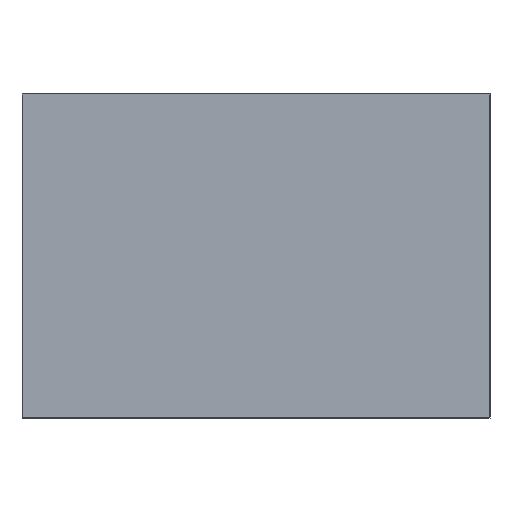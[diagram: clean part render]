
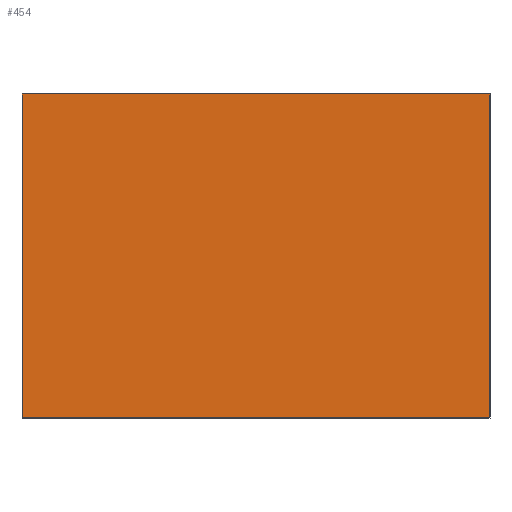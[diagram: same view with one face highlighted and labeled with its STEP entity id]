
A CAD part, left-side view. The second image highlights one B-rep face of the part: STEP entity #454.
In plain terms, the highlighted planar face has unit normal (-1, 0, 0).
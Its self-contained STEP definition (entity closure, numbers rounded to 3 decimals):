
#36=FACE_OUTER_BOUND('',#62,.T.);
#62=EDGE_LOOP('',(#375,#376,#377,#378));
#100=LINE('',#692,#160);
#107=LINE('',#705,#167);
#114=LINE('',#719,#174);
#115=LINE('',#721,#175);
#160=VECTOR('',#569,10.);
#167=VECTOR('',#578,10.);
#174=VECTOR('',#591,10.);
#175=VECTOR('',#594,10.);
#211=VERTEX_POINT('',#689);
#212=VERTEX_POINT('',#691);
#217=VERTEX_POINT('',#703);
#221=VERTEX_POINT('',#717);
#260=EDGE_CURVE('',#211,#212,#100,.T.);
#267=EDGE_CURVE('',#217,#211,#107,.T.);
#274=EDGE_CURVE('',#217,#221,#114,.T.);
#275=EDGE_CURVE('',#212,#221,#115,.T.);
#375=ORIENTED_EDGE('',*,*,#275,.F.);
#376=ORIENTED_EDGE('',*,*,#260,.F.);
#377=ORIENTED_EDGE('',*,*,#267,.F.);
#378=ORIENTED_EDGE('',*,*,#274,.T.);
#428=PLANE('',#505);
#454=ADVANCED_FACE('',(#36),#428,.T.);
#505=AXIS2_PLACEMENT_3D('',#725,#597,#598);
#569=DIRECTION('',(0.,-1.,0.));
#578=DIRECTION('',(0.,0.,1.));
#591=DIRECTION('',(0.,-1.,0.));
#594=DIRECTION('',(0.,0.,-1.));
#597=DIRECTION('center_axis',(-1.,0.,0.));
#598=DIRECTION('ref_axis',(0.,0.,1.));
#689=CARTESIAN_POINT('',(-0.005,0.52,0.355));
#691=CARTESIAN_POINT('',(-0.005,0.,0.355));
#692=CARTESIAN_POINT('',(-0.005,0.52,0.355));
#703=CARTESIAN_POINT('',(-0.005,0.52,-0.005));
#705=CARTESIAN_POINT('',(-0.005,0.52,-0.005));
#717=CARTESIAN_POINT('',(-0.005,0.,-0.005));
#719=CARTESIAN_POINT('',(-0.005,0.52,-0.005));
#721=CARTESIAN_POINT('',(-0.005,0.,0.355));
#725=CARTESIAN_POINT('Origin',(-0.005,-0.001,0.175));
